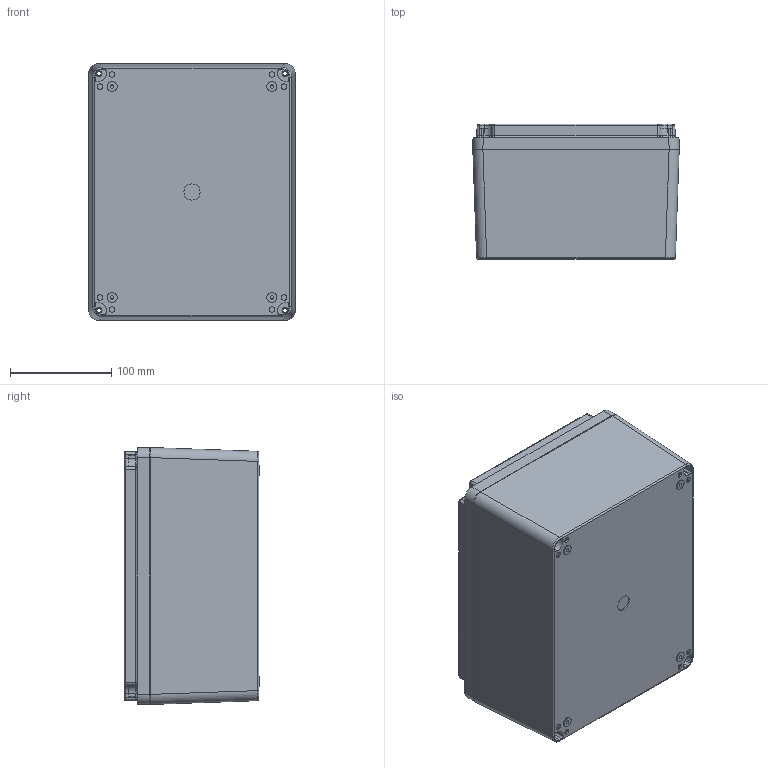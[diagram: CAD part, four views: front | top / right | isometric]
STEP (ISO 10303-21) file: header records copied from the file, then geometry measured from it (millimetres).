
FILE_DESCRIPTION (( 'STEP AP214' ), '1' );
FILE_NAME ('BEN-92.STEP', '2022-12-21T15:27:42', ( 'rfkube@comcast.net' ), ( '' ), 'SwSTEP 2.0', 'SolidWorks 2016', '' );
FILE_SCHEMA (( 'AUTOMOTIVE_DESIGN' ));
Length unit declared in the file: millimetre
Products named in the file (4): BEN-92; BEN-92 Bottom; BEN-92 Seal; BEN-92 Top
Assembly tree (3 placements, depth 2):
  BEN-92
    BEN-92 Bottom
    BEN-92 Top
    BEN-92 Seal
Bounding box: 204 x 133.99 x 254 mm (x, y, z)
Volume: 711067.6 mm3; surface area: 464696.7 mm2
Topology: 3 solids, 3 shells, 685 faces, 1608 edges, 1008 vertices
Faces by surface type: cylinder 284, plane 217, bspline 128, torus 40, cone 16
Entity records: 21632 total; most frequent: CARTESIAN_POINT 6471, ORIENTED_EDGE 3216, DIRECTION 3050, EDGE_CURVE 1608, AXIS2_PLACEMENT_3D 1167, VERTEX_POINT 1008, EDGE_LOOP 790, VECTOR 716
